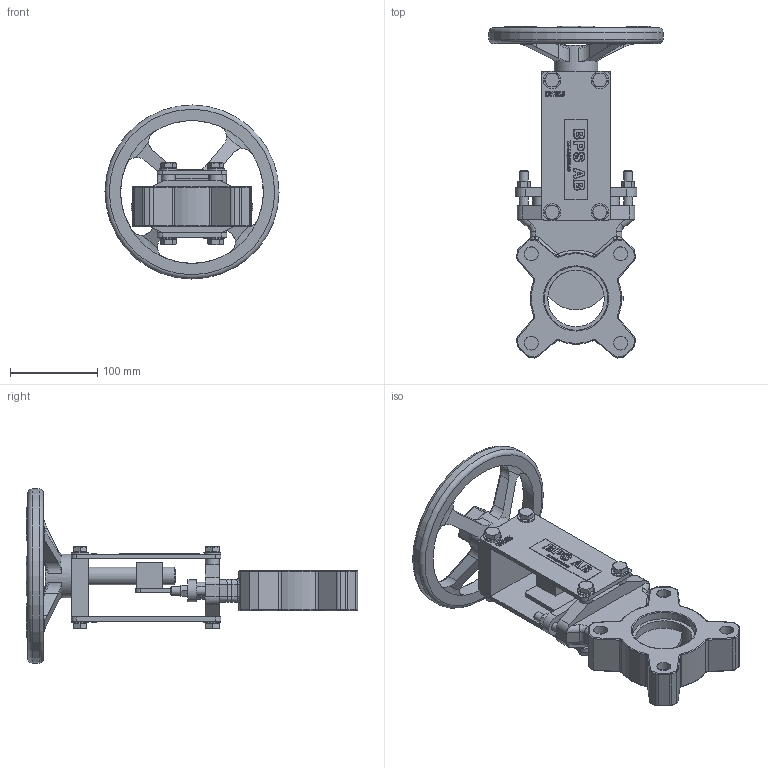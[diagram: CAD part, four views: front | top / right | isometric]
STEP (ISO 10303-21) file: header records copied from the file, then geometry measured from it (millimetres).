
FILE_DESCRIPTION((''),'2;1');
FILE_NAME('Z:\Kunder\BPS\BPS Produkter\BPS 2015\DN 65\Ritningar\BPS 2015065.stp','2012-12-28T10:43:31',('James'),(''),'Autodesk Inventor 2013','Autodesk Inventor 2013','');
FILE_SCHEMA(('AUTOMOTIVE_DESIGN { 1 2 10303 214 0 1 1 1 }'));
Length unit declared in the file: millimetre
Products named in the file (2): BPS 2015065 (SubstituteLevelofDetail1); BPS 2015065
Assembly tree (1 placements, depth 2):
  BPS 2015065 (SubstituteLevelofDetail1)
    BPS 2015065
Bounding box: 200 x 381.37 x 200 mm (x, y, z)
Volume: 1375659.3 mm3; surface area: 253832.7 mm2
Topology: 2 solids, 16 shells, 1138 faces, 2766 edges, 1749 vertices
Faces by surface type: plane 549, bspline 252, cylinder 207, torus 59, cone 55, sphere 16
Full cylindrical faces by diameter (mm): 8 x2, 10 x16, 10.5 x8, 14.63 x8, 16 x10, 20 x10, 50 x1, 65 x1, 73 x1, 164 x1, 200 x1
Entity records: 41036 total; most frequent: CARTESIAN_POINT 15048, ORIENTED_EDGE 5332, DIRECTION 4503, EDGE_CURVE 2666, VERTEX_POINT 1728, AXIS2_PLACEMENT_3D 1518, VECTOR 1467, LINE 1467
